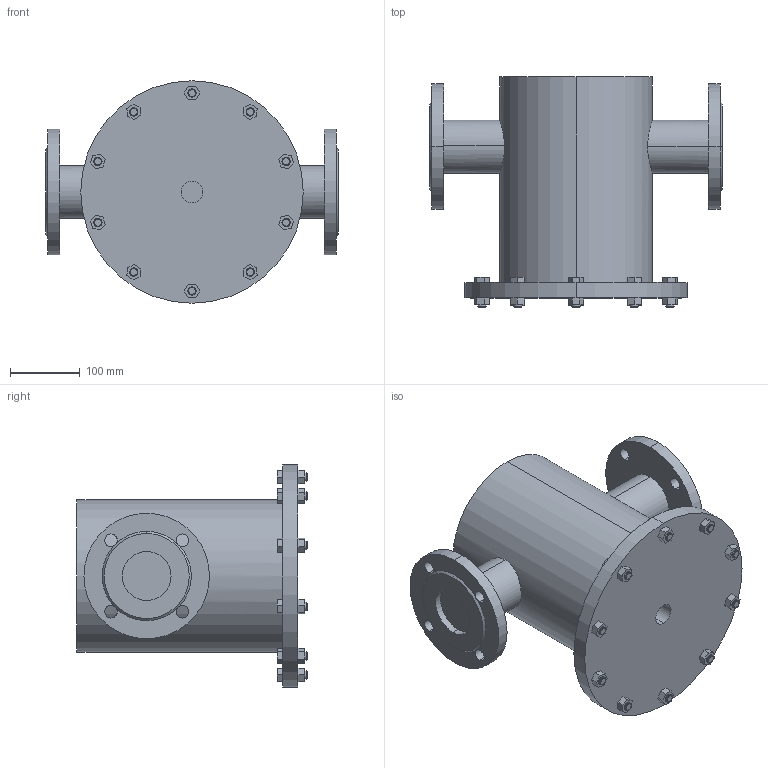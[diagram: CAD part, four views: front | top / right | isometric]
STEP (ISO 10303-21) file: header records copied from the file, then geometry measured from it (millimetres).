
FILE_DESCRIPTION (( 'STEP AP214' ), '1' );
FILE_NAME ('DN065 PN10.STEP', '2025-08-08T12:27:23', ( '' ), ( '' ), 'SwSTEP 2.0', 'SolidWorks 2023', '' );
FILE_SCHEMA (( 'AUTOMOTIVE_DESIGN' ));
Length unit declared in the file: millimetre
Products named in the file (1): DN065 PN10
Bounding box: 420 x 330 x 319 mm (x, y, z)
Volume: 14310580.4 mm3; surface area: 555054.1 mm2
Topology: 1 solids, 1 shells, 246 faces, 610 edges, 400 vertices
Faces by surface type: plane 164, cylinder 58, cone 24
Entity records: 8200 total; most frequent: CARTESIAN_POINT 1584, DIRECTION 1248, ORIENTED_EDGE 1220, EDGE_CURVE 610, LINE 442, VECTOR 442, AXIS2_PLACEMENT_3D 403, VERTEX_POINT 400
